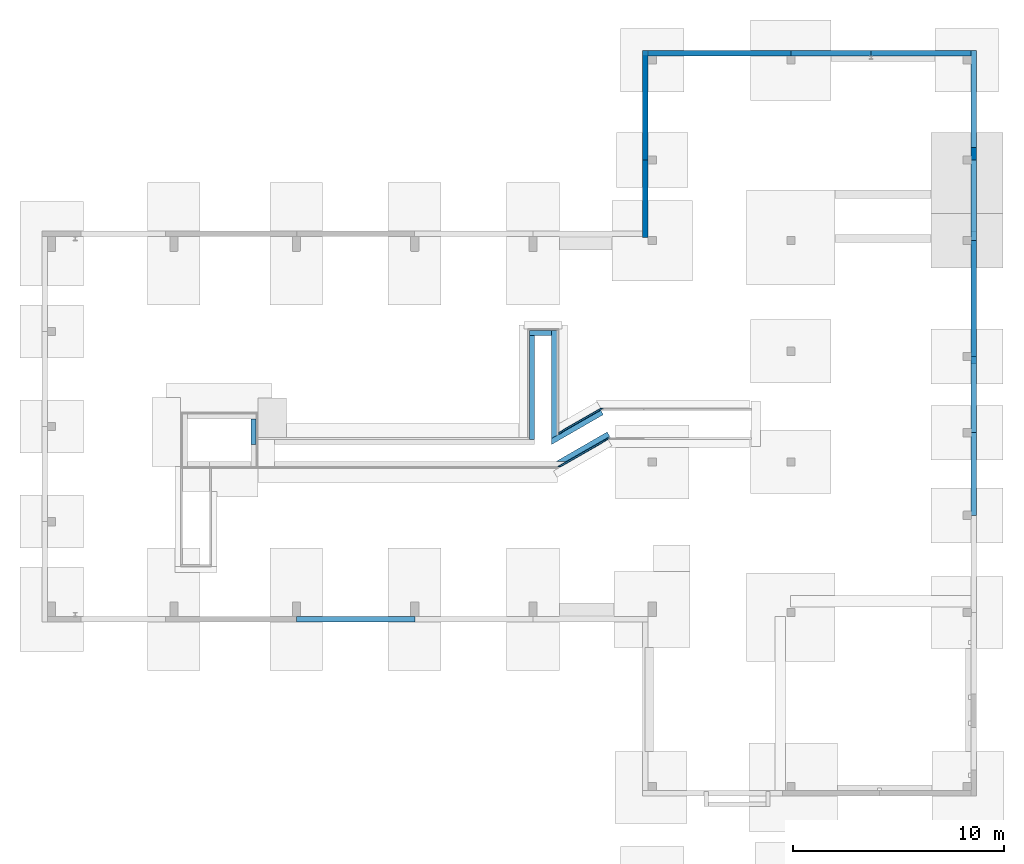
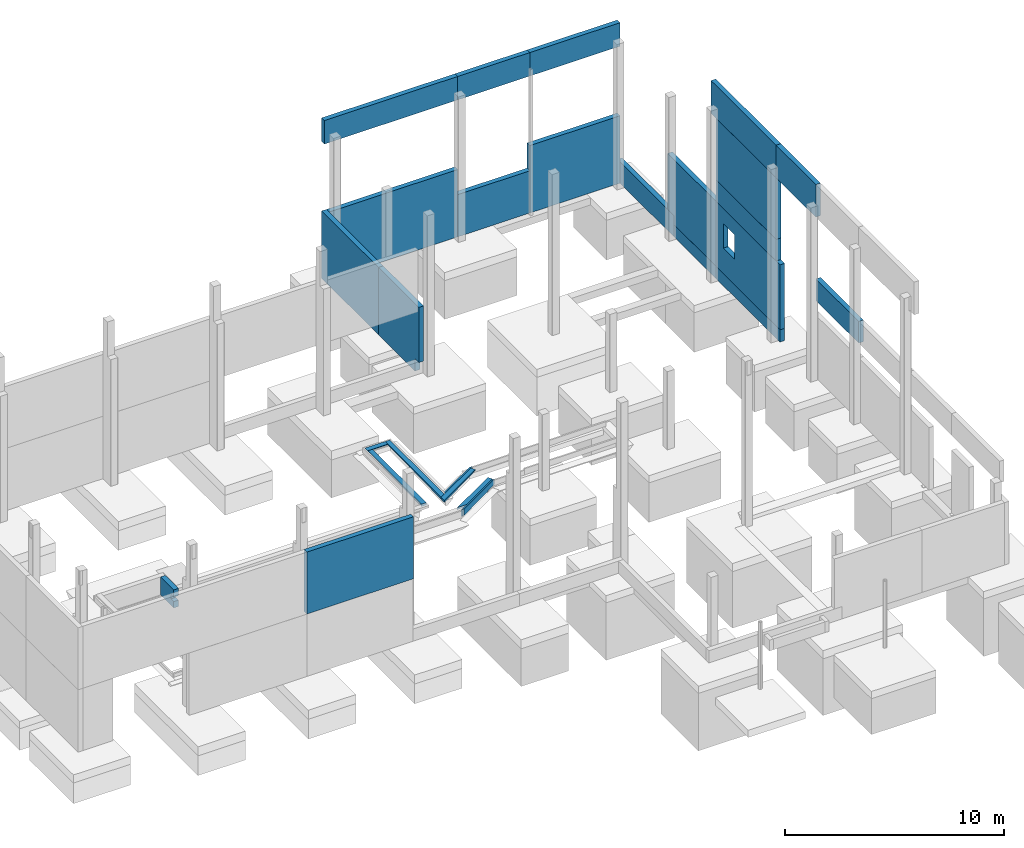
# One storey, part 10 of 12: 27 walls, 1 opening.
"""IFC4X3_ADD2 building model written with IfcOpenShell, lengths in millimetres."""

from ifc_helpers import new_model, si_unit, direction, frame, frame_2d, origin_with_axes, place, context, subcontext, project, spatial, polyline, rectangle, outline, extrude, clip, bounded_halfspace, faceted_brep, polygons, material, layer, layer_set, type_object, element, save


model = new_model("IFC4X3_ADD2")

# Units and contexts
model_context = context("Model", 3, precision=1e-05, world=origin_with_axes(), true_north=direction((0.0, 1.0)))
body_context = subcontext(model_context, "Body", "Model", "MODEL_VIEW")
ifc_project = project(units=[si_unit("LENGTHUNIT", "METRE", prefix="MILLI"), si_unit("AREAUNIT", "SQUARE_METRE"), si_unit("VOLUMEUNIT", "CUBIC_METRE"), si_unit("PLANEANGLEUNIT", "RADIAN"), si_unit("TIMEUNIT", "SECOND"), si_unit("MASSUNIT", "GRAM")], contexts=[model_context])

# Site, building, storey
site_placement = place(None, origin_with_axes())
site = spatial("IfcSite", under=ifc_project, at=site_placement, Name="Site", CompositionType="ELEMENT")
building_placement = place(site_placement, origin_with_axes())
building = spatial("IfcBuilding", under=site, at=building_placement, Name="IFC Building Story")
storey_placement = place(building_placement, frame((0.0, 0.0, -800.0), z_axis=(0.0, 0.0, 1.0), x_axis=(1.0, 0.0, 0.0)))
storey = spatial("IfcBuildingStorey", under=building, at=storey_placement, Name="FOND 00 (0)", Elevation=-800.0)

# Walls
ifc_material_1 = material(Name="BS_28_Ossature en béton armé - Eléments préfabriqués(panneau façade)")
ifc_layer_1 = layer(ifc_material_1, 90.0)
ifc_material_2 = material(Name="BS_21_Isolation des murs extérieurs")
ifc_layer_2 = layer(ifc_material_2, 100.0)
ifc_layer_3 = layer(ifc_material_1, 60.0)
ifc_layer_set = layer_set([ifc_layer_1, ifc_layer_2, ifc_layer_3], Name="Mur de base:BS_21_WA_BTpréfab90-ISO100-BTlissépréfab60")
wall_type_1 = type_object("IfcWallType", Name="Mur de base:BS_21_WA_BTpréfab90-ISO100-BTlissépréfab60 250", PredefinedType="NOTDEFINED", material=ifc_layer_set)
wall_1_placement = place(storey_placement, origin_with_axes())
element("IfcWall", 1, at=wall_1_placement, inside=storey, type_object=wall_type_1, Name="Mur de base:BS_21_WA_BTpréfab90-ISO100-BTlissépréfab60", ObjectType="Mur de base:BS_21_WA_BTpréfab90-ISO100-BTlissépréfab60", context=body_context, shape_type="SweptSolid", body=[
    extrude(rectangle(XDim=5179.99999997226, YDim=250.0000000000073, at=frame_2d((0.0, 5.95523630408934e-12), x_axis=(0.0, 1.0))), frame((33076.6894781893, 24210.00000001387, 50.0), z_axis=(0.0, 0.0, 1.0), x_axis=(1.0, 0.0, 0.0)), (0.0, 0.0, 1.0), 3749.0),
])
wall_2_placement = place(storey_placement, origin_with_axes())
element("IfcWall", 2, at=wall_2_placement, inside=storey, type_object=wall_type_1, Name="Mur de base:BS_21_WA_BTpréfab90-ISO100-BTlissépréfab60", ObjectType="Mur de base:BS_21_WA_BTpréfab90-ISO100-BTlissépréfab60", context=body_context, shape_type="SweptSolid", body=[
    extrude(rectangle(XDim=5826.0, YDim=250.0, at=frame_2d((0.0, 5.95523630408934e-12), x_axis=(0.0, 1.0))), frame((48626.68947815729, 14887.0000000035, 50.0), z_axis=(0.0, 0.0, 1.0), x_axis=(1.0, 0.0, 0.0)), (0.0, 0.0, 1.0), 680.0),
])
wall_3_placement = place(storey_placement, origin_with_axes())
element("IfcWall", 3, at=wall_3_placement, inside=storey, type_object=wall_type_1, Name="Mur de base:BS_21_WA_BTpréfab90-ISO100-BTlissépréfab60", ObjectType="Mur de base:BS_21_WA_BTpréfab90-ISO100-BTlissépréfab60", context=body_context, shape_type="SweptSolid", body=[
    extrude(rectangle(XDim=3820.000000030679, YDim=249.9999999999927, at=frame_2d((0.0, 5.95523630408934e-12), x_axis=(0.0, 1.0))), frame((48626.68947815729, 19710.00000001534, 50.0), z_axis=(0.0, 0.0, 1.0), x_axis=(1.0, 0.0, 0.0)), (0.0, 0.0, 1.0), 680.0),
])
wall_4_placement = place(storey_placement, origin_with_axes())
element("IfcWall", 4, at=wall_4_placement, inside=storey, type_object=wall_type_1, Name="Mur de base:BS_21_WA_BTpréfab90-ISO100-BTlissépréfab60", ObjectType="Mur de base:BS_21_WA_BTpréfab90-ISO100-BTlissépréfab60", context=body_context, shape_type="SweptSolid", body=[
    extrude(rectangle(XDim=4734.999999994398, YDim=250.0000000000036, at=frame_2d((0.0, 5.95523630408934e-12), x_axis=(1.0, 0.0))), frame((46134.18947816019, 26675.0000000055, 7670.0), z_axis=(0.0, 0.0, 1.0), x_axis=(1.0, 0.0, 0.0)), (0.0, 0.0, 1.0), 1305.0),
])

# Wall, opening
wall_5_placement = place(storey_placement, origin_with_axes())
wall_5 = element("IfcWall", 5, at=wall_5_placement, inside=storey, type_object=wall_type_1, Name="Mur de base:BS_21_WA_BTpréfab90-ISO100-BTlissépréfab60", ObjectType="Mur de base:BS_21_WA_BTpréfab90-ISO100-BTlissépréfab60", context=body_context, shape_type="SweptSolid", body=[
    extrude(rectangle(XDim=3805.000000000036, YDim=250.0000000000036, at=frame_2d((0.0, 5.95523630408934e-12), x_axis=(1.0, 0.0))), frame((41864.18947816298, 26675.0000000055, 50.0), z_axis=(0.0, 0.0, 1.0), x_axis=(1.0, 0.0, 0.0)), (0.0, 0.0, 1.0), 2350.0),
])
opening_placement = place(wall_5_placement, frame((40851.689478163, 26550.0000000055, 2400.0), z_axis=(0.0, 1.0, 0.0), x_axis=(1.0, 0.0, 0.0)))
element("IfcOpeningElement", 6, at=opening_placement, cuts=wall_5, ObjectType="Opening", context=body_context, shape_type="SweptSolid", body=[
    extrude(outline(polyline([(-6710.0, 125.0), (6710.0, 125.0), (6710.0, -125.0), (-6710.0, -125.0), (-6710.0, 125.0)])), frame((0.0, -1400.0, 124.999999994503), z_axis=(0.0, 1.0, 0.0), x_axis=(1.0, 0.0, 0.0)), (0.0, 0.0, 1.0), 1400.0),
])

# Walls
wall_6_placement = place(storey_placement, origin_with_axes())
element("IfcWall", 7, at=wall_6_placement, inside=storey, type_object=wall_type_1, Name="Mur de base:BS_21_WA_BTpréfab90-ISO100-BTlissépréfab60", ObjectType="Mur de base:BS_21_WA_BTpréfab90-ISO100-BTlissépréfab60", context=body_context, shape_type="SweptSolid", body=[
    extrude(rectangle(XDim=3805.000000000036, YDim=250.0000000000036, at=frame_2d((0.0, 5.95523630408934e-12), x_axis=(1.0, 0.0))), frame((41864.18947816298, 26675.0000000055, 7670.0), z_axis=(0.0, 0.0, 1.0), x_axis=(1.0, 0.0, 0.0)), (0.0, 0.0, 1.0), 1305.0),
])
wall_7_placement = place(storey_placement, origin_with_axes())
element("IfcWall", 8, at=wall_7_placement, inside=storey, type_object=wall_type_1, Name="Mur de base:BS_21_WA_BTpréfab90-ISO100-BTlissépréfab60", ObjectType="Mur de base:BS_21_WA_BTpréfab90-ISO100-BTlissépréfab60", context=body_context, shape_type="SweptSolid", body=[
    extrude(rectangle(XDim=7009.999999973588, YDim=250.0000000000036, at=frame_2d((0.0, 5.95523630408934e-12), x_axis=(1.0, 0.0))), frame((36456.6894781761, 26675.0000000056, 7670.0), z_axis=(0.0, 0.0, 1.0), x_axis=(1.0, 0.0, 0.0)), (0.0, 0.0, 1.0), 1305.0),
])
wall_8_placement = place(storey_placement, origin_with_axes())
element("IfcWall", 9, at=wall_8_placement, inside=storey, type_object=wall_type_1, Name="Mur de base:BS_21_WA_BTpréfab90-ISO100-BTlissépréfab60", ObjectType="Mur de base:BS_21_WA_BTpréfab90-ISO100-BTlissépréfab60", context=body_context, shape_type="Clipping", body=[
    clip(extrude(outline(polyline([(-125.0, -2205.00000000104), (-125.0, 2205.00000000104), (124.9999999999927, 2205.00000000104), (124.9999999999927, -2205.00000000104), (-125.0, -2205.00000000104)])), frame((48626.6894781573, 20005.00000000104, 731.0), z_axis=(0.0, 0.0, 1.0), x_axis=(1.0, 0.0, 0.0)), (0.0, 0.0, 1.0), 3613.0), bounded_halfspace(frame((0.0, 0.0, 1230.0), z_axis=(0.0, 0.0, -1.0), x_axis=(-1.0, 0.0, 0.0)), False, frame((48626.6894781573, 20005.00000000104, 731.0), z_axis=(0.0, 0.0, 1.0), x_axis=(1.0, 0.0, 0.0)), polyline([(-125.0, 2205.00000000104), (124.9999999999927, 2205.00000000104), (124.9999999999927, 1614.99999999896), (-125.0, 1614.99999999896), (-125.0, 2205.00000000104)]))),
])
wall_9_placement = place(storey_placement, origin_with_axes())
element("IfcWall", 10, at=wall_9_placement, inside=storey, type_object=wall_type_1, Name="Mur de base:BS_21_WA_BTpréfab90-ISO100-BTlissépréfab60", ObjectType="Mur de base:BS_21_WA_BTpréfab90-ISO100-BTlissépréfab60", context=body_context, shape_type="SweptSolid", body=[
    extrude(rectangle(XDim=5179.999999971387, YDim=249.9999999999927, at=frame_2d((0.0, 5.95523630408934e-12), x_axis=(0.0, 1.0))), frame((48626.68947815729, 24209.99999998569, 50.0), z_axis=(0.0, 0.0, 1.0), x_axis=(1.0, 0.0, 0.0)), (0.0, 0.0, 1.0), 1180.0),
])
wall_10_placement = place(storey_placement, origin_with_axes())
element("IfcWall", 11, at=wall_10_placement, inside=storey, type_object=wall_type_1, Name="Mur de base:BS_21_WA_BTpréfab90-ISO100-BTlissépréfab60", ObjectType="Mur de base:BS_21_WA_BTpréfab90-ISO100-BTlissépréfab60", context=body_context, shape_type="SweptSolid", body=[
    extrude(rectangle(XDim=5479.99999998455, YDim=250.0, at=frame_2d((0.0, 5.95523630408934e-12), x_axis=(0.0, 1.0))), frame((48626.68947815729, 15059.99999999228, 4345.0), z_axis=(0.0, 0.0, 1.0), x_axis=(1.0, 0.0, 0.0)), (0.0, 0.0, 1.0), 1199.00000000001),
])
wall_11_placement = place(storey_placement, origin_with_axes())
element("IfcWall", 12, at=wall_11_placement, inside=storey, type_object=wall_type_1, Name="Mur de base:BS_21_WA_BTpréfab90-ISO100-BTlissépréfab60", ObjectType="Mur de base:BS_21_WA_BTpréfab90-ISO100-BTlissépréfab60", context=body_context, shape_type="SweptSolid", body=[
    extrude(rectangle(XDim=5479.99999998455, YDim=250.0, at=frame_2d((0.0, 5.95523630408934e-12), x_axis=(0.0, 1.0))), frame((48626.68947815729, 15059.99999999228, 5545.0), z_axis=(0.0, 0.0, 1.0), x_axis=(1.0, 0.0, 0.0)), (0.0, 0.0, 1.0), 3430.0),
])
wall_12_placement = place(storey_placement, origin_with_axes())
element("IfcWall", 13, at=wall_12_placement, inside=storey, type_object=wall_type_1, Name="Mur de base:BS_21_WA_BTpréfab90-ISO100-BTlissépréfab60", ObjectType="Mur de base:BS_21_WA_BTpréfab90-ISO100-BTlissépréfab60", context=body_context, shape_type="Brep", body=[
    faceted_brep([(48501.68947815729, 17125.0000000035, 2150.0), (48501.68947815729, 17125.0000000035, 3520.0), (48501.68947815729, 16125.0000000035, 3520.0), (48501.68947815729, 16125.0000000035, 2150.0), (48501.68947815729, 11974.0000000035, 731.0), (48501.68947815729, 11974.0000000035, 4344.0), (48501.68947815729, 17800.0000000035, 4344.0), (48501.68947815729, 17800.0000000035, 731.0), (48751.68947815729, 17125.0000000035, 3520.0), (48751.68947815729, 17125.0000000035, 2150.0), (48751.68947815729, 16125.0000000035, 2150.0), (48751.68947815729, 16125.0000000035, 3520.0), (48751.6894781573, 11974.0000000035, 4344.0), (48751.6894781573, 11974.0000000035, 731.0), (48751.6894781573, 17800.0000000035, 731.0), (48751.6894781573, 17800.0000000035, 4344.0)], [[[0, 1, 2, 3], [4, 5, 6, 7]], [[8, 9, 10, 11], [12, 13, 14, 15]], [[13, 12, 5, 4]], [[3, 2, 11, 10]], [[0, 3, 10, 9]], [[1, 0, 9, 8]], [[2, 1, 8, 11]], [[6, 15, 14, 7]], [[12, 15, 6, 5]], [[7, 14, 13, 4]]], outer=[[False, True], [False, True], [True], [True], [True], [True], [True], [True], [True], [True]]),
])
wall_13_placement = place(storey_placement, origin_with_axes())
element("IfcWall", 14, at=wall_13_placement, inside=storey, type_object=wall_type_1, Name="Mur de base:BS_21_WA_BTpréfab90-ISO100-BTlissépréfab60", ObjectType="Mur de base:BS_21_WA_BTpréfab90-ISO100-BTlissépréfab60", context=body_context, shape_type="SweptSolid", body=[
    extrude(rectangle(XDim=3609.999999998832, YDim=249.9999999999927, at=frame_2d((0.0, 5.95523630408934e-12), x_axis=(0.0, 1.0))), frame((48626.6894781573, 10514.99999999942, 8976.0), z_axis=(0.0, 0.0, 1.0), x_axis=(1.0, 0.0, 0.0)), (0.0, 0.0, 1.0), 1814.0),
])
wall_14_placement = place(storey_placement, origin_with_axes())
element("IfcWall", 15, at=wall_14_placement, inside=storey, type_object=wall_type_1, Name="Mur de base:BS_21_WA_BTpréfab90-ISO100-BTlissépréfab60", ObjectType="Mur de base:BS_21_WA_BTpréfab90-ISO100-BTlissépréfab60", context=body_context, shape_type="SweptSolid", body=[
    extrude(rectangle(XDim=5929.99999998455, YDim=249.9999999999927, at=frame_2d((0.0, 5.95523630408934e-12), x_axis=(0.0, 1.0))), frame((48626.68947815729, 15284.99999999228, 8976.0), z_axis=(0.0, 0.0, 1.0), x_axis=(1.0, 0.0, 0.0)), (0.0, 0.0, 1.0), 1814.0),
])
wall_15_placement = place(storey_placement, origin_with_axes())
element("IfcWall", 16, at=wall_15_placement, inside=storey, type_object=wall_type_1, Name="Mur de base:BS_21_WA_BTpréfab90-ISO100-BTlissépréfab60", ObjectType="Mur de base:BS_21_WA_BTpréfab90-ISO100-BTlissépréfab60", context=body_context, shape_type="SweptSolid", body=[
    extrude(rectangle(XDim=3910.58017330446, YDim=250.0, at=frame_2d((0.0, 5.95523630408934e-12), x_axis=(0.0, 1.0))), frame((48626.68947815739, 6754.70991334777, 4345.0), z_axis=(0.0, 0.0, 1.0), x_axis=(1.0, 0.0, 0.0)), (0.0, 0.0, 1.0), 1199.00000000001),
])
wall_16_placement = place(storey_placement, origin_with_axes())
element("IfcWall", 17, at=wall_16_placement, inside=storey, type_object=wall_type_1, Name="Mur de base:BS_21_WA_BTpréfab90-ISO100-BTlissépréfab60", ObjectType="Mur de base:BS_21_WA_BTpréfab90-ISO100-BTlissépréfab60", context=body_context, shape_type="Clipping", body=[
    clip(extrude(outline(polyline([(124.9999999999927, 1837.500000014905), (124.9999999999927, -1837.500000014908), (-125.0, -1837.500000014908), (-125.0, 1837.500000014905), (124.9999999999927, 1837.500000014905)])), frame((33076.68947818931, 19782.49999998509, 50.0), z_axis=(0.0, 0.0, 1.0), x_axis=(1.0, 0.0, 0.0)), (0.0, 0.0, 1.0), 3749.0), bounded_halfspace(frame((0.0, 0.0, 730.0), z_axis=(0.0, 0.0, -1.0), x_axis=(-1.0, 0.0, 0.0)), False, frame((33076.68947818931, 19782.49999998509, 50.0), z_axis=(0.0, 0.0, 1.0), x_axis=(1.0, 0.0, 0.0)), polyline([(124.9999999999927, -1837.500000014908), (-125.0, -1837.500000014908), (-125.0000000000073, -1492.500000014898), (124.9999999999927, -1492.500000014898), (124.9999999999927, -1837.500000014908)]))),
])
wall_17_placement = place(storey_placement, origin_with_axes())
element("IfcWall", 18, at=wall_17_placement, inside=storey, type_object=wall_type_1, Name="Mur de base:BS_21_WA_BTpréfab90-ISO100-BTlissépréfab60", ObjectType="Mur de base:BS_21_WA_BTpréfab90-ISO100-BTlissépréfab60", context=body_context, shape_type="SweptSolid", body=[
    extrude(rectangle(XDim=4734.999999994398, YDim=250.0000000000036, at=frame_2d((0.0, 5.95523630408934e-12), x_axis=(1.0, 0.0))), frame((46134.18947816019, 26675.0000000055, 50.0), z_axis=(0.0, 0.0, 1.0), x_axis=(1.0, 0.0, 0.0)), (0.0, 0.0, 1.0), 3749.0),
])
wall_18_placement = place(storey_placement, origin_with_axes())
element("IfcWall", 19, at=wall_18_placement, inside=storey, type_object=wall_type_1, Name="Mur de base:BS_21_WA_BTpréfab90-ISO100-BTlissépréfab60", ObjectType="Mur de base:BS_21_WA_BTpréfab90-ISO100-BTlissépréfab60", context=body_context, shape_type="SweptSolid", body=[
    extrude(rectangle(XDim=6759.999999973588, YDim=250.0000000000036, at=frame_2d((0.0, 5.95523630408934e-12), x_axis=(1.0, 0.0))), frame((36581.6894781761, 26675.0000000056, 50.0), z_axis=(0.0, 0.0, 1.0), x_axis=(1.0, 0.0, 0.0)), (0.0, 0.0, 1.0), 3749.0),
])
ifc_material_3 = material(Name="BS_28_Ossature en béton armé - Eléments coulé sur place")
wall_type_2 = type_object("IfcWallType", Name="Mur de base:BS_28_WA_BTcoulé250", PredefinedType="NOTDEFINED", material=ifc_material_3)
wall_19_placement = place(storey_placement, origin_with_axes())
element("IfcWall", 20, at=wall_19_placement, inside=storey, type_object=wall_type_2, Name="Mur de base:BS_28_WA_BTcoulé250", ObjectType="Mur de base:BS_28_WA_BTcoulé250", context=body_context, shape_type="Brep", body=[
    faceted_brep([(14401.6894781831, 8150.000000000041, 119.9999999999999), (14401.6894781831, 8400.0, 119.9999999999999), (14651.6894781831, 8400.0, 125.094804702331), (14651.6894781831, 8150.000000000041, 125.094804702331), (14401.6894781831, 8400.0, -129.9999999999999), (14401.6894781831, 8150.000000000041, -130.0), (14651.6894781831, 8150.000000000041, -124.905195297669), (14651.6894781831, 8400.0, -124.9051952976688), (14651.6894781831, 8150.000000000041, -480.0), (14651.6894781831, 9350.0, -480.0), (14651.6894781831, 9350.0, 520.0), (14651.6894781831, 8150.000000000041, 520.0), (14401.6894781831, 8150.000000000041, -480.0), (14401.6894781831, 8150.000000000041, 520.0), (14401.6894781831, 9350.0, 520.0), (14401.6894781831, 9350.0, -480.0)], [[[0, 1, 2, 3]], [[4, 5, 6, 7]], [[1, 4, 7, 2]], [[3, 2, 7, 6, 8, 9, 10, 11]], [[6, 5, 12, 8]], [[0, 3, 11, 13]], [[1, 0, 13, 14, 15, 12, 5, 4]], [[14, 10, 9, 15]], [[11, 10, 14, 13]], [[15, 9, 8, 12]]]),
])
wall_20_placement = place(storey_placement, origin_with_axes())
element("IfcWall", 21, at=wall_20_placement, inside=storey, type_object=wall_type_2, Name="Mur de base:BS_28_WA_BTcoulé250", ObjectType="Mur de base:BS_28_WA_BTcoulé250", context=body_context, shape_type="Brep", body=[
    faceted_brep([(31268.56424682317, 8745.753175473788, 463.9616906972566), (31386.92628414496, 8540.744113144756, 465.8727994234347), (31308.26624463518, 8480.000000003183, 464.200000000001), (31241.27894652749, 8730.000000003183, 463.3923076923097), (30842.57840492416, 8499.810134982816, 452.738461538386), (28912.00792787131, 7385.194750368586, 408.1538461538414), (28851.04883207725, 7350.000000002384, 407.4801345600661), (28851.04883207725, 7350.000000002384, 520.0), (31268.56424682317, 8745.753175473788, 520.0), (28912.75184435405, 7350.000000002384, 408.2582666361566), (29351.04883207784, 7350.000000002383, 418.9999999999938), (29351.04883207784, 7350.000000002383, 520.0), (31393.56424682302, 8529.246824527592, 466.0139636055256), (31393.56424682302, 8529.246824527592, 520.0)], [[[0, 1, 2, 3]], [[0, 3, 4, 5, 6, 7, 8]], [[4, 3, 2]], [[6, 5, 9]], [[6, 9, 10, 11, 7]], [[1, 12, 2]], [[10, 9, 5, 4, 2]], [[2, 12, 13, 11, 10]], [[1, 0, 8, 13, 12]], [[11, 13, 8, 7]]]),
])
wall_21_placement = place(storey_placement, origin_with_axes())
element("IfcWall", 22, at=wall_21_placement, inside=storey, type_object=wall_type_2, Name="Mur de base:BS_28_WA_BTcoulé250", ObjectType="Mur de base:BS_28_WA_BTcoulé250", context=body_context, shape_type="Brep", body=[
    faceted_brep([(30963.76886884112, 9780.000000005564, -480.0), (30963.76886884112, 9780.000000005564, 460.0755321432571), (30959.93229447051, 9780.00000000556, 459.9999999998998), (30959.93229447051, 9780.00000000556, -480.0), (31087.80972524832, 9565.154934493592, 462.0783327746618), (31026.91959258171, 9530.000000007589, 460.8076923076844), (30962.80972524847, 9781.66128543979, -480.0), (28886.6894781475, 8583.01270190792, 404.5999999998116), (29352.3773178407, 8563.202566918, 416.0615384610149), (31087.80972524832, 9565.154934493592, 519.999999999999), (28636.68947815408, 8150.000000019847, 519.999999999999), (28636.68947815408, 8150.000000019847, 402.6165651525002), (28892.71768046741, 8297.817951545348, 405.4461538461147), (28636.68947815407, 8438.675134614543, 401.837034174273), (28636.68947815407, 8438.675134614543, 519.999999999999), (30962.80972524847, 9781.66128543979, 519.999999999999)], [[[0, 1, 2, 3]], [[1, 4, 5, 2]], [[0, 3, 6]], [[7, 2, 5, 8]], [[5, 4, 9, 10, 11, 12, 8]], [[12, 11, 13, 7]], [[8, 12, 7]], [[13, 11, 10, 14]], [[2, 7, 13, 14, 15, 6, 3]], [[1, 0, 6, 15, 9, 4]], [[10, 9, 15, 14]]]),
])
wall_22_placement = place(storey_placement, origin_with_axes())
element("IfcWall", 23, at=wall_22_placement, inside=storey, type_object=wall_type_2, Name="Mur de base:BS_28_WA_BTcoulé250", ObjectType="Mur de base:BS_28_WA_BTcoulé250", context=body_context, shape_type="Brep", body=[
    faceted_brep([(27836.6894781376, 8400.000000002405, 520.0), (27836.6894781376, 13301.6303948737, 520.0), (27586.6894781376, 13301.6303948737, 520.0), (27586.6894781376, 8400.000000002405, 520.0), (27652.1000249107, 13301.6303948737, 487.2225249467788), (27586.6894781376, 13301.6303948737, 486.6064352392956), (27836.6894781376, 13301.6303948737, 487.2225249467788), (27836.6894781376, 12596.12699239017, 474.869230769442), (27586.6894781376, 8400.000000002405, 388.7), (27836.6894781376, 8400.000000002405, 391.8527313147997), (27836.6894781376, 8435.194750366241, 391.7576923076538)], [[[0, 1, 2, 3]], [[4, 5, 2, 1, 6]], [[6, 7, 4]], [[8, 9, 0, 3]], [[9, 8, 10]], [[10, 7, 6, 1, 0, 9]], [[5, 8, 3, 2]], [[8, 5, 4, 7, 10]]]),
])
wall_23_placement = place(storey_placement, origin_with_axes())
element("IfcWall", 24, at=wall_23_placement, inside=storey, type_object=wall_type_2, Name="Mur de base:BS_28_WA_BTcoulé250", ObjectType="Mur de base:BS_28_WA_BTcoulé250", context=body_context, shape_type="Brep", body=[
    faceted_brep([(28636.68947815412, 8547.817951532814, 401.5423076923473), (28636.68947815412, 9538.516104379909, 421.3307692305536), (28886.6894781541, 8583.012701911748, 404.6000000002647), (28636.68947815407, 8438.675134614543, 401.837034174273), (28636.68947815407, 8438.675134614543, 519.999999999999), (28636.6894781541, 13551.6303948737, 520.0), (28636.6894781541, 13551.6303948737, 491.6), (28886.6894781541, 8583.01270191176, 520.0), (28886.6894781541, 13551.6303948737, 491.6), (28886.6894781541, 13551.6303948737, 520.0)], [[[0, 1, 2]], [[1, 0, 3, 4, 5, 6]], [[3, 0, 2]], [[3, 2, 7, 4]], [[8, 2, 1, 6]], [[2, 8, 9, 7]], [[8, 6, 5, 9]], [[7, 9, 5, 4]]]),
])
wall_24_placement = place(storey_placement, origin_with_axes())
element("IfcWall", 25, at=wall_24_placement, inside=storey, type_object=wall_type_2, Name="Mur de base:BS_28_WA_BTcoulé250", ObjectType="Mur de base:BS_28_WA_BTcoulé250", context=body_context, shape_type="Brep", body=[
    faceted_brep([(27586.6894781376, 13551.6303948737, 491.5999999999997), (27586.6894781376, 13301.6303948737, 486.6064352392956), (27586.6894781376, 13301.6303948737, 520.0), (27586.6894781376, 13551.6303948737, 519.9999999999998), (28636.6894781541, 13551.6303948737, 520.0), (28636.68947815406, 13301.6303948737, 519.9999999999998), (28636.6894781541, 13551.6303948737, 491.6), (28636.68947815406, 13301.6303948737, 487.2225249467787), (27652.10002489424, 13301.6303948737, 487.2225249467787)], [[[0, 1, 2, 3]], [[4, 3, 2, 5]], [[6, 0, 3, 4]], [[7, 6, 4, 5]], [[7, 8, 0, 6]], [[1, 8, 7, 5, 2]], [[8, 1, 0]]]),
])
wall_25_placement = place(storey_placement, frame((0.0, 0.0, 800.0), z_axis=(0.0, 0.0, 1.0), x_axis=(1.0, 0.0, 0.0)))
element("IfcWall", 26, at=wall_25_placement, inside=storey, Name="Mur de base:BS_21_WA_BTpréfab90-ISO100-BTlissépréfab60", ObjectType="Mur de base:BS_21_WA_BTpréfab90-ISO100-BTlissépréfab60", context=body_context, shape_type="Tessellation", body=[
    polygons([(16551.68947818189, -4.195008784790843e-09, 2720.0), (16551.68947818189, -4.195008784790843e-09, 6165.0), (22176.6894781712, -4.195008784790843e-09, 6165.0), (22176.6894781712, -4.195008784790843e-09, 2720.0), (16551.68947818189, -250.000000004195, 6165.0), (16551.68947818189, -250.000000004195, 2720.0), (22176.6894781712, -250.000000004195, 2720.0), (22176.6894781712, -250.000000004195, 6165.0), (16551.68947818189, -90.00000000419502, 2720.0), (22176.6894781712, -90.00000000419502, 2720.0)], [[[1, 2, 3, 4]], [[5, 6, 7, 8]], [[9, 6, 5]], [[9, 5, 2]], [[2, 1, 9]], [[2, 5, 8, 3]], [[6, 9, 10, 7]], [[9, 1, 4, 10]], [[10, 4, 3]], [[3, 8, 7]], [[3, 7, 10]]]),
])
wall_26_placement = place(storey_placement, frame((0.0, 0.0, 800.0), z_axis=(0.0, 0.0, 1.0), x_axis=(1.0, 0.0, 0.0)))
element("IfcWall", 27, at=wall_26_placement, inside=storey, Name="Mur de base:BS_13_WA_XPS80", ObjectType="Mur de base:BS_13_WA_XPS80", context=body_context, shape_type="Tessellation", body=[
    polygons([(28966.68947815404, 8629.20072343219, -645.419027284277), (31098.44195256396, 9859.968588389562, -588.1973761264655), (31098.44195256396, 9859.968588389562, -280.0), (30959.8778879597, 9779.968588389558, -280.0), (28966.68947815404, 8629.20072343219, -280.0), (28966.68947815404, 8721.576766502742, -644.3453256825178), (28966.68947815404, 8721.576766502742, -280.0), (30938.44195256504, 9859.968588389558, -280.0), (30938.44195256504, 9859.968588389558, -591.4184809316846)], [[[4, 5, 1]], [[4, 1, 2]], [[2, 3, 4]], [[6, 7, 8, 9]], [[2, 1, 6, 9]], [[4, 3, 8]], [[8, 7, 5]], [[8, 5, 4]], [[1, 5, 7, 6]], [[3, 2, 9, 8]]]),
])
wall_27_placement = place(storey_placement, frame((0.0, 0.0, 800.0), z_axis=(0.0, 0.0, 1.0), x_axis=(1.0, 0.0, 0.0)))
element("IfcWall", 28, at=wall_27_placement, inside=storey, Name="Mur de base:BS_13_WA_XPS80", ObjectType="Mur de base:BS_13_WA_XPS80", context=body_context, shape_type="Tessellation", body=[
    polygons([(29078.03613019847, 7100.000000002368, -637.626066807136), (31468.32065113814, 8480.03141161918, -576.0614687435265), (31468.32065113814, 8480.03141161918, -280.0), (31329.75658653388, 8400.031411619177, -280.0), (29078.03613019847, 7100.000000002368, -280.0), (28918.03613019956, 7100.000000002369, -640.7168083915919), (28918.03613019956, 7100.000000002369, -280.0), (31308.32065113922, 8480.031411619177, -280.0), (31308.32065113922, 8480.031411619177, -579.1522103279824)], [[[4, 5, 1]], [[4, 1, 2]], [[2, 3, 4]], [[6, 7, 8, 9]], [[2, 1, 6, 9]], [[4, 3, 8]], [[8, 7, 5]], [[8, 5, 4]], [[1, 5, 7, 6]], [[3, 2, 9, 8]]]),
])

save(model, "model.ifc")
